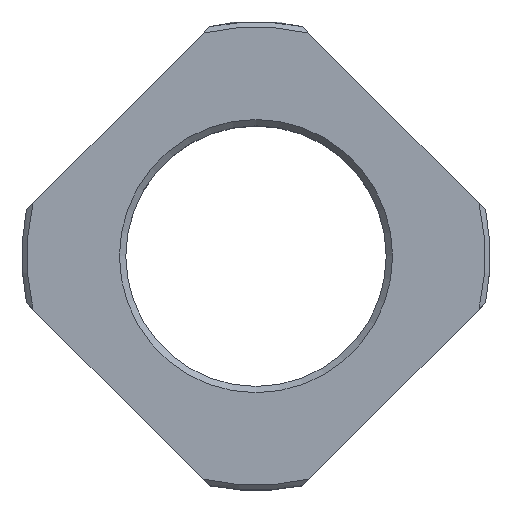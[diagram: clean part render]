
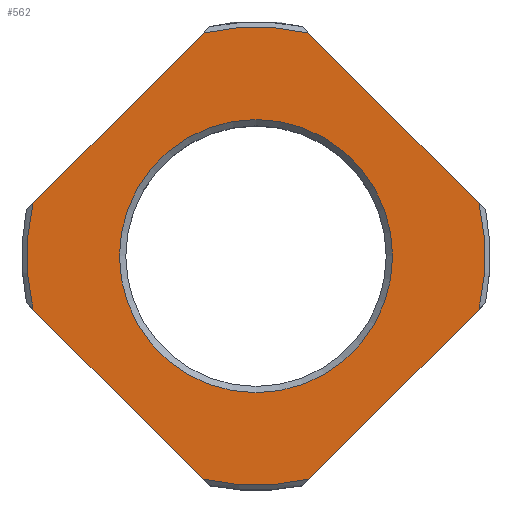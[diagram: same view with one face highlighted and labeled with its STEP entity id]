
A CAD part, top view. The second image highlights one B-rep face of the part: STEP entity #562.
In plain terms, the highlighted planar face has unit normal (0, 0, 1).
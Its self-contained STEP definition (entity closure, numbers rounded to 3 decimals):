
#32=PLANE('',#617);
#50=LINE('',#878,#84);
#51=LINE('',#882,#85);
#52=LINE('',#886,#86);
#53=LINE('',#890,#87);
#84=VECTOR('',#697,1000.);
#85=VECTOR('',#700,1000.);
#86=VECTOR('',#703,1000.);
#87=VECTOR('',#706,1000.);
#146=ORIENTED_EDGE('',*,*,#300,.F.);
#147=ORIENTED_EDGE('',*,*,#301,.T.);
#148=ORIENTED_EDGE('',*,*,#302,.F.);
#149=ORIENTED_EDGE('',*,*,#303,.T.);
#150=ORIENTED_EDGE('',*,*,#304,.F.);
#151=ORIENTED_EDGE('',*,*,#305,.T.);
#152=ORIENTED_EDGE('',*,*,#306,.F.);
#153=ORIENTED_EDGE('',*,*,#307,.T.);
#154=ORIENTED_EDGE('',*,*,#308,.T.);
#300=EDGE_CURVE('',#378,#379,#430,.T.);
#301=EDGE_CURVE('',#378,#380,#50,.T.);
#302=EDGE_CURVE('',#381,#380,#431,.T.);
#303=EDGE_CURVE('',#381,#382,#51,.T.);
#304=EDGE_CURVE('',#383,#382,#432,.T.);
#305=EDGE_CURVE('',#383,#384,#52,.T.);
#306=EDGE_CURVE('',#385,#384,#433,.T.);
#307=EDGE_CURVE('',#385,#379,#53,.T.);
#308=EDGE_CURVE('',#386,#386,#434,.T.);
#378=VERTEX_POINT('',#876);
#379=VERTEX_POINT('',#877);
#380=VERTEX_POINT('',#879);
#381=VERTEX_POINT('',#881);
#382=VERTEX_POINT('',#883);
#383=VERTEX_POINT('',#885);
#384=VERTEX_POINT('',#887);
#385=VERTEX_POINT('',#889);
#386=VERTEX_POINT('',#892);
#430=CIRCLE('',#618,29.37);
#431=CIRCLE('',#619,29.37);
#432=CIRCLE('',#620,29.37);
#433=CIRCLE('',#621,29.37);
#434=CIRCLE('',#622,17.5);
#459=EDGE_LOOP('',(#146,#147,#148,#149,#150,#151,#152,#153));
#460=EDGE_LOOP('',(#154));
#509=FACE_BOUND('',#459,.T.);
#510=FACE_BOUND('',#460,.T.);
#562=ADVANCED_FACE('',(#509,#510),#32,.F.);
#617=AXIS2_PLACEMENT_3D('',#874,#693,#694);
#618=AXIS2_PLACEMENT_3D('',#875,#695,#696);
#619=AXIS2_PLACEMENT_3D('',#880,#698,#699);
#620=AXIS2_PLACEMENT_3D('',#884,#701,#702);
#621=AXIS2_PLACEMENT_3D('',#888,#704,#705);
#622=AXIS2_PLACEMENT_3D('',#891,#707,#708);
#693=DIRECTION('',(0.,0.,-1.));
#694=DIRECTION('',(-1.,0.,0.));
#695=DIRECTION('',(0.,0.,-1.));
#696=DIRECTION('',(-1.,0.,0.));
#697=DIRECTION('',(-0.707,-0.707,0.));
#698=DIRECTION('',(0.,0.,-1.));
#699=DIRECTION('',(-1.,0.,0.));
#700=DIRECTION('',(0.707,-0.707,0.));
#701=DIRECTION('',(0.,0.,-1.));
#702=DIRECTION('',(-1.,0.,0.));
#703=DIRECTION('',(0.707,0.707,0.));
#704=DIRECTION('',(0.,0.,-1.));
#705=DIRECTION('',(-1.,0.,0.));
#706=DIRECTION('',(-0.707,0.707,0.));
#707=DIRECTION('',(0.,0.,-1.));
#708=DIRECTION('',(-1.,0.,0.));
#874=CARTESIAN_POINT('',(0.,0.,21.));
#875=CARTESIAN_POINT('',(0.,0.,21.));
#876=CARTESIAN_POINT('',(-6.778,28.577,21.));
#877=CARTESIAN_POINT('',(6.778,28.577,21.));
#878=CARTESIAN_POINT('',(0.,35.355,21.));
#879=CARTESIAN_POINT('',(-28.577,6.778,21.));
#880=CARTESIAN_POINT('',(0.,0.,21.));
#881=CARTESIAN_POINT('',(-28.577,-6.778,21.));
#882=CARTESIAN_POINT('',(-35.355,0.,21.));
#883=CARTESIAN_POINT('',(-6.778,-28.577,21.));
#884=CARTESIAN_POINT('',(0.,0.,21.));
#885=CARTESIAN_POINT('',(6.778,-28.577,21.));
#886=CARTESIAN_POINT('',(0.,-35.355,21.));
#887=CARTESIAN_POINT('',(28.577,-6.778,21.));
#888=CARTESIAN_POINT('',(0.,0.,21.));
#889=CARTESIAN_POINT('',(28.577,6.778,21.));
#890=CARTESIAN_POINT('',(35.355,0.,21.));
#891=CARTESIAN_POINT('',(0.,0.,21.));
#892=CARTESIAN_POINT('',(-17.5,0.,21.));
